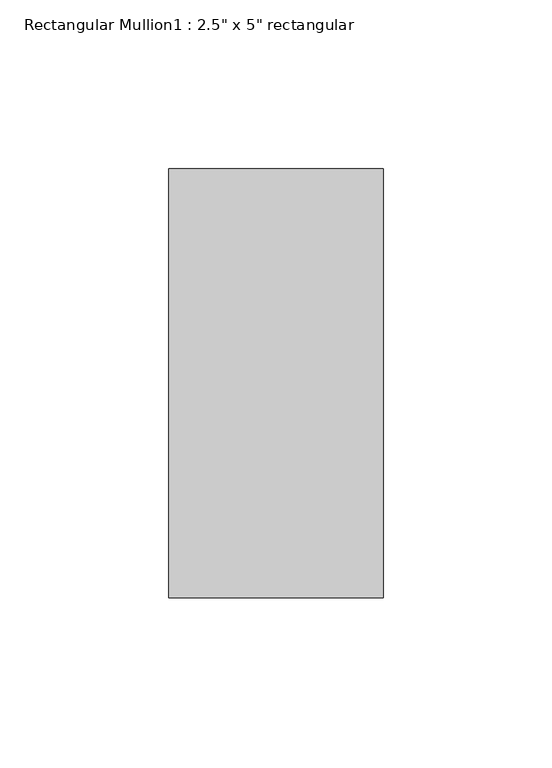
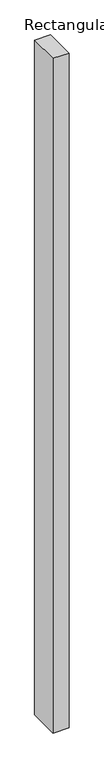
"""IFC4 building model written with IfcOpenShell, lengths in millimetres: member geometry."""

import ifcopenshell
import ifcopenshell.guid

model = None  # the IFC model being written
_history = None  # IfcOwnerHistory: only IFC2X3 demands one
_inside = {}  # id of a spatial element -> (the spatial element, [elements in it])
_under = {}  # id of a project, library or spatial element -> (it, [spatial elements below it])
_declared = {}  # id of a project -> (the project, [libraries it declares])
_typed = {}  # id of a type object -> (the type object, [elements of that type])
_made_of = {}  # id of a material, layer set ... -> (it, [elements and type objects made of it])


def new_model(schema):
    """Start an empty IFC model of exactly this schema.

    Asked for "IFC4X3", IfcOpenShell would pick the latest addendum, in which some entities
    have other attributes; the version numbers below select the first issue.
    IFC2X3 requires an IfcOwnerHistory on every rooted entity: one is made here for all.
    """
    global model, _history
    if schema == "IFC4X3":
        model = ifcopenshell.file(schema_version=(4, 3, 0, 0))
    else:
        model = ifcopenshell.file(schema=schema)
    _inside.clear()
    _under.clear()
    _declared.clear()
    _typed.clear()
    _made_of.clear()
    _history = None
    if model.schema == "IFC2X3":
        org = make("IfcOrganization", Name="unknown")
        user = make(
            "IfcPersonAndOrganization",
            ThePerson=make("IfcPerson", FamilyName="unknown"),
            TheOrganization=org,
        )
        app = make(
            "IfcApplication",
            ApplicationDeveloper=org,
            Version="unknown",
            ApplicationFullName="unknown",
            ApplicationIdentifier="unknown",
        )
        _history = make(
            "IfcOwnerHistory",
            OwningUser=user,
            OwningApplication=app,
            ChangeAction="ADDED",
            CreationDate=0,
        )
    return model


def make(cls, **values):
    """One entity of the class cls with the attributes given. An attribute that is None is left unset."""
    return model.create_entity(
        cls, **{name: value for name, value in values.items() if value is not None}
    )


def rooted(cls, **values):
    """An entity with a GlobalId (a new one), such as an element, a storey or a relation."""
    return make(cls, GlobalId=ifcopenshell.guid.new(), OwnerHistory=_history, **values)


def si_unit(unit_type, name, prefix=None):
    """IfcSIUnit, for example si_unit("LENGTHUNIT", "METRE", prefix="MILLI")."""
    return make("IfcSIUnit", UnitType=unit_type, Prefix=prefix, Name=name)


def assignment(units):
    """IfcUnitAssignment: the units of a project."""
    return None if units is None else make("IfcUnitAssignment", Units=units)


def point(xyz):
    """IfcCartesianPoint."""
    return None if xyz is None else make("IfcCartesianPoint", Coordinates=xyz)


def direction(xyz):
    """IfcDirection."""
    return None if xyz is None else make("IfcDirection", DirectionRatios=xyz)


def frame(location, z_axis=None, x_axis=None):
    """IfcAxis2Placement3D, a coordinate frame: its origin and axes. An axis left out is left unset."""
    return make(
        "IfcAxis2Placement3D",
        Location=point(location),
        Axis=direction(z_axis),
        RefDirection=direction(x_axis),
    )


def origin():
    """The frame at (0, 0, 0) with its axes left unset."""
    return frame((0.0, 0.0, 0.0))


def place(relative_to, where):
    """IfcLocalPlacement: puts the frame where relative to a parent placement (None: the world)."""
    return make(
        "IfcLocalPlacement", PlacementRelTo=relative_to, RelativePlacement=where
    )


def context(
    kind, dimensions, precision=None, world=None, true_north=None, identifier=None
):
    """IfcGeometricRepresentationContext, for example the 3D "Model" context."""
    return make(
        "IfcGeometricRepresentationContext",
        ContextIdentifier=identifier,
        ContextType=kind,
        CoordinateSpaceDimension=dimensions,
        Precision=precision,
        WorldCoordinateSystem=world,
        TrueNorth=true_north,
    )


def project(units=None, contexts=None):
    """IfcProject with its units and contexts."""
    return rooted(
        "IfcProject",
        Name="project",
        RepresentationContexts=contexts,
        UnitsInContext=assignment(units),
    )


def spatial(cls, under=None, at=None, **own):
    """A site, building, storey or space (cls), placed at a placement, below another one or the project."""
    s = rooted(cls, ObjectPlacement=at, **own)
    if under is not None:
        _under.setdefault(under.id(), (under, []))[1].append(s)
    return s


def polyline(points):
    """IfcPolyline through the points."""
    return make("IfcPolyline", Points=[point(p) for p in points])


def outline(outer, holes=None, kind="AREA"):
    """IfcArbitraryClosedProfileDef: a profile drawn as a closed curve; with holes, ...WithVoids."""
    if holes is None:
        return make("IfcArbitraryClosedProfileDef", ProfileType=kind, OuterCurve=outer)
    return make(
        "IfcArbitraryProfileDefWithVoids",
        ProfileType=kind,
        OuterCurve=outer,
        InnerCurves=holes,
    )


def extrude(swept, where, along, depth):
    """IfcExtrudedAreaSolid: the profile swept, set in the frame where, extruded along a direction by depth."""
    return make(
        "IfcExtrudedAreaSolid",
        SweptArea=swept,
        Position=where,
        ExtrudedDirection=direction(along),
        Depth=depth,
    )


def shape(context_of_items, identifier, shape_type, items):
    """IfcShapeRepresentation: the items that make up one representation, for example the "Body"."""
    return make(
        "IfcShapeRepresentation",
        ContextOfItems=context_of_items,
        RepresentationIdentifier=identifier,
        RepresentationType=shape_type,
        Items=items,
    )


def source(mapping_origin, context_of_items, identifier, shape_type, items):
    """IfcRepresentationMap: a shape defined once, which mapped items show again and again."""
    return make(
        "IfcRepresentationMap",
        MappingOrigin=mapping_origin,
        MappedRepresentation=shape(context_of_items, identifier, shape_type, items),
    )


def transform(
    local_origin,
    x_axis=None,
    y_axis=None,
    z_axis=None,
    scale=None,
    scale2=None,
    scale3=None,
    uniform=True,
):
    """IfcCartesianTransformationOperator3D, or its non-uniform kind. x_axis, y_axis, z_axis: its Axis1, 2, 3."""
    if uniform:
        return make(
            "IfcCartesianTransformationOperator3D",
            Axis1=direction(x_axis),
            Axis2=direction(y_axis),
            LocalOrigin=point(local_origin),
            Scale=scale,
            Axis3=direction(z_axis),
        )
    return make(
        "IfcCartesianTransformationOperator3DnonUniform",
        Axis1=direction(x_axis),
        Axis2=direction(y_axis),
        LocalOrigin=point(local_origin),
        Scale=scale,
        Axis3=direction(z_axis),
        Scale2=scale2,
        Scale3=scale3,
    )


def mapped(mapping_source, mapping_target):
    """IfcMappedItem: shows the shape of a source again, moved by a transform."""
    return make(
        "IfcMappedItem", MappingSource=mapping_source, MappingTarget=mapping_target
    )


def made_of(thing, what):
    """Note that an element or type object is made of a material, layer set ...; save() writes the relation."""
    if what is not None:
        _made_of.setdefault(what.id(), (what, []))[1].append(thing)
    return thing


def element(
    cls,
    number,
    at=None,
    inside=None,
    cuts=None,
    type_object=None,
    material=None,
    context=None,
    identifier="Body",
    shape_type=None,
    held_by="IfcProductDefinitionShape",
    body=None,
    shapes=None,
    **own,
):
    """One element of the class cls, such as IfcWall. Its Tag is "e" and its number.

    at: its placement. inside: the storey or other place that contains it. cuts: it is an
    opening in that element (IfcRelVoidsElement). A single representation is given by context,
    identifier, shape_type and body (its items); several are given by shapes. held_by: the class
    of the entity that holds the representations. save() writes the other relations.
    """
    e = rooted(cls, Tag="e%d" % number, ObjectPlacement=at, **own)
    if body is not None:
        shapes = [shape(context, identifier, shape_type, body)]
    if shapes is not None:
        e.Representation = make(held_by, Representations=shapes)
    if inside is not None:
        _inside.setdefault(inside.id(), (inside, []))[1].append(e)
    if cuts is not None:
        rooted(
            "IfcRelVoidsElement", RelatingBuildingElement=cuts, RelatedOpeningElement=e
        )
    if type_object is not None:
        _typed.setdefault(type_object.id(), (type_object, []))[1].append(e)
    return made_of(e, material)


def aggregate(whole, parts):
    """IfcRelAggregates: a whole, such as a stair, and the parts it consists of."""
    return rooted("IfcRelAggregates", RelatingObject=whole, RelatedObjects=parts)


def save(model, path):
    """Write the relations noted so far, then the file.

    IfcRelAggregates (storeys below a building ...), IfcRelContainedInSpatialStructure (elements
    in a storey), IfcRelDefinesByType, IfcRelAssociatesMaterial and IfcRelDeclares: one each for
    every whole, place, type object, material and project.
    """
    for whole, parts in _under.values():
        aggregate(whole, parts)
    for where, things in _inside.values():
        rooted(
            "IfcRelContainedInSpatialStructure",
            RelatedElements=things,
            RelatingStructure=where,
        )
    for kind, things in _typed.values():
        rooted("IfcRelDefinesByType", RelatedObjects=things, RelatingType=kind)
    for what, things in _made_of.values():
        rooted("IfcRelAssociatesMaterial", RelatedObjects=things, RelatingMaterial=what)
    for by, libraries in _declared.values():
        rooted("IfcRelDeclares", RelatingContext=by, RelatedDefinitions=libraries)
    model.write(path)


def member_5da9506a(model_context):
    return source(origin(), model_context, "Body", "SweptSolid", [
        extrude(outline(polyline([(0.0, 63.5), (0.0, -63.5), (-63.5, -63.5), (-63.5, 63.5), (0.0, 63.5)])), frame((0.0, 0.0, -2852.42), z_axis=(0.0, 0.0, 1.0), x_axis=(1.0, 0.0, 0.0)), (0.0, 0.0, 1.0), 2852.42),
    ])


if __name__ == "__main__":
    model = new_model("IFC4")
    model_context = context("Model", 3, world=origin())
    ifc_project = project(units=[si_unit("LENGTHUNIT", "METRE", prefix="MILLI")], contexts=[model_context])
    site = spatial("IfcSite", under=ifc_project)
    building = spatial("IfcBuilding", under=site)
    placement = place(None, origin())
    member_shape = member_5da9506a(model_context)
    element("IfcMember", 1, ObjectType="Rectangular Mullion1 : 2.5\" x 5\" rectangular", at=placement, inside=building, context=model_context, shape_type="MappedRepresentation", body=[
        mapped(member_shape, transform((0.0, 0.0, 0.0), x_axis=(1.0, 0.0, 0.0), y_axis=(0.0, 1.0, 0.0), z_axis=(0.0, 0.0, 1.0))),
    ])
    save(model, "model.ifc")
